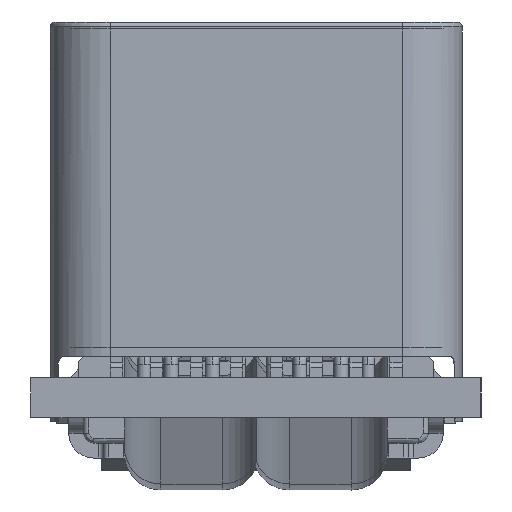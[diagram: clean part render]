
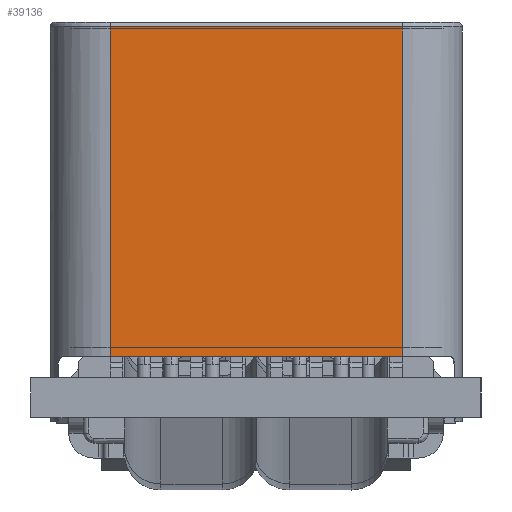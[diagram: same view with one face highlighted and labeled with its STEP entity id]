
A CAD part, front view. The second image highlights one B-rep face of the part: STEP entity #39136.
In plain terms, the highlighted planar face has unit normal (0, -1, 0).
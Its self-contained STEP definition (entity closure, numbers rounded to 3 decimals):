
#38373 = VERTEX_POINT('',#38374);
#38374 = CARTESIAN_POINT('',(-29.781,99.731,
    2.998));
#38381 = EDGE_CURVE('',#38382,#38373,#38384,.T.);
#38382 = VERTEX_POINT('',#38383);
#38383 = CARTESIAN_POINT('',(-29.781,99.731,
    -3.602));
#38384 = LINE('',#38385,#38386);
#38385 = CARTESIAN_POINT('',(-29.781,99.731,
    102.308));
#38386 = VECTOR('',#38387,1.);
#38387 = DIRECTION('',(0.,0.,1.));
#38557 = VERTEX_POINT('',#38558);
#38558 = CARTESIAN_POINT('',(-35.631,99.731,
    -3.602));
#38565 = EDGE_CURVE('',#38566,#38557,#38568,.T.);
#38566 = VERTEX_POINT('',#38567);
#38567 = CARTESIAN_POINT('',(-35.631,99.731,
    2.998));
#38568 = LINE('',#38569,#38570);
#38569 = CARTESIAN_POINT('',(-35.631,99.731,
    102.308));
#38570 = VECTOR('',#38571,1.);
#38571 = DIRECTION('',(0.,0.,-1.));
#38893 = EDGE_CURVE('',#38373,#38566,#38894,.T.);
#38894 = LINE('',#38895,#38896);
#38895 = CARTESIAN_POINT('',(0.,99.731,2.998));
#38896 = VECTOR('',#38897,1.);
#38897 = DIRECTION('',(-1.,0.,0.));
#39136 = ADVANCED_FACE('',(#39137),#39148,.F.);
#39137 = FACE_BOUND('',#39138,.T.);
#39138 = EDGE_LOOP('',(#39139,#39140,#39146,#39147));
#39139 = ORIENTED_EDGE('',*,*,#38565,.T.);
#39140 = ORIENTED_EDGE('',*,*,#39141,.T.);
#39141 = EDGE_CURVE('',#38557,#38382,#39142,.T.);
#39142 = LINE('',#39143,#39144);
#39143 = CARTESIAN_POINT('',(-29.781,99.731,
    -3.602));
#39144 = VECTOR('',#39145,1.);
#39145 = DIRECTION('',(1.,0.,0.));
#39146 = ORIENTED_EDGE('',*,*,#38381,.T.);
#39147 = ORIENTED_EDGE('',*,*,#38893,.T.);
#39148 = PLANE('',#39149);
#39149 = AXIS2_PLACEMENT_3D('',#39150,#39151,#39152);
#39150 = CARTESIAN_POINT('',(0.,99.731,102.308));
#39151 = DIRECTION('',(0.,1.,0.));
#39152 = DIRECTION('',(1.,0.,0.));
